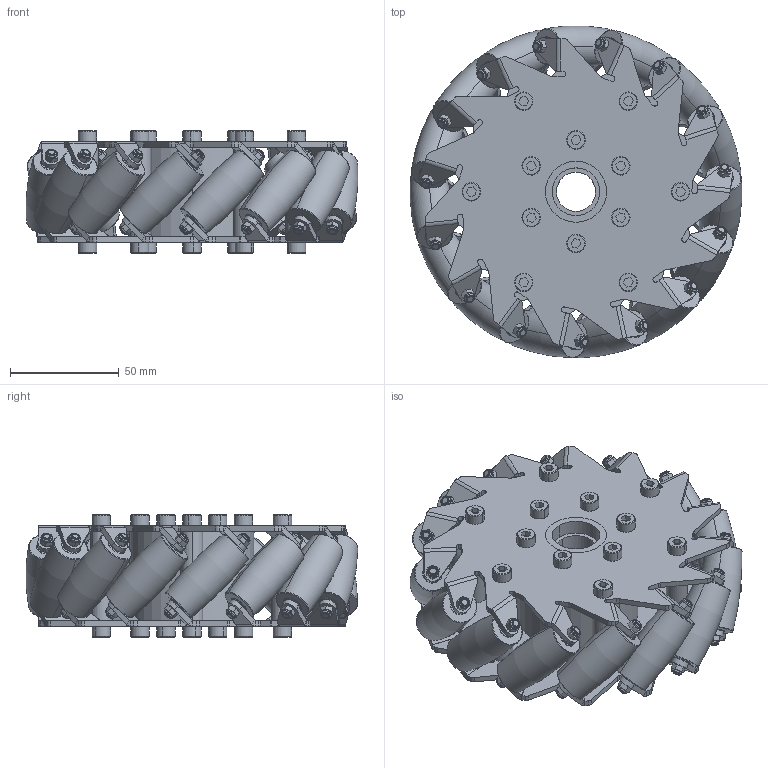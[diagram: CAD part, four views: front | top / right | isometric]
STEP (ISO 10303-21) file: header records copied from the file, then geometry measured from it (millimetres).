
FILE_DESCRIPTION (( 'STEP AP214' ), '1' );
FILE_NAME ('14165.STEP', '2016-11-18T02:00:35', ( '微软用户' ), ( '微软中国' ), 'SwSTEP 2.0', 'SolidWorks 2015', '' );
FILE_SCHEMA (( 'AUTOMOTIVE_DESIGN' ));
Length unit declared in the file: millimetre
Products named in the file (12): 囀鞠褒蹟佪(M5X12); 6寸45度15分车轮-轮片(A版右); 6寸45度15分车轮-中心链接体(A版); 14165; 滅侂蹟譫M3; 6寸45度15分车轮-小轮子组合(A版右); 赛钢套; す菜朴3; 6寸45度15分车轮-小轮子固定轴(A版); 6寸45度15分车轮-小轮子(A版右); 6寸45度15分车轮-铝棒(A版); 6寸45度15分车轮-轮片组合(A版右)
Assembly tree (58 placements, depth 3):
  14165
    6寸45度15分车轮-中心链接体(A版)
    6寸45度15分车轮-轮片组合(A版右)  x2
      6寸45度15分车轮-轮片(A版右)
      囀鞠褒蹟佪(M5X12)
      滅侂蹟譫M3
    6寸45度15分车轮-铝棒(A版)  x6
    6寸45度15分车轮-小轮子组合(A版右)  x15
      6寸45度15分车轮-小轮子(A版右)
      6寸45度15分车轮-小轮子固定轴(A版)
      す菜朴3
      赛钢套
Bounding box: 152.27 x 152.27 x 56 mm (x, y, z)
Volume: 321557.6 mm3; surface area: 175156.8 mm2
Topology: 153 solids, 153 shells, 2798 faces, 6192 edges, 3800 vertices
Faces by surface type: cylinder 1048, plane 1042, torus 390, cone 288, bspline 30
Entity records: 15233 total; most frequent: CARTESIAN_POINT 2868, DIRECTION 2611, ORIENTED_EDGE 2338, EDGE_CURVE 1169, AXIS2_PLACEMENT_3D 997, VERTEX_POINT 730, VECTOR 617, LINE 617
